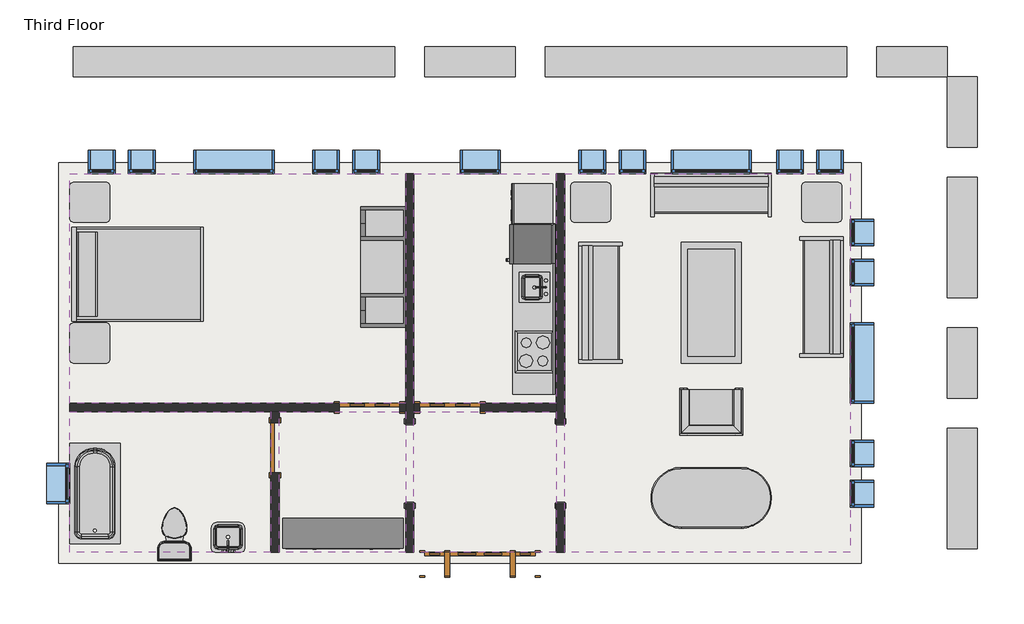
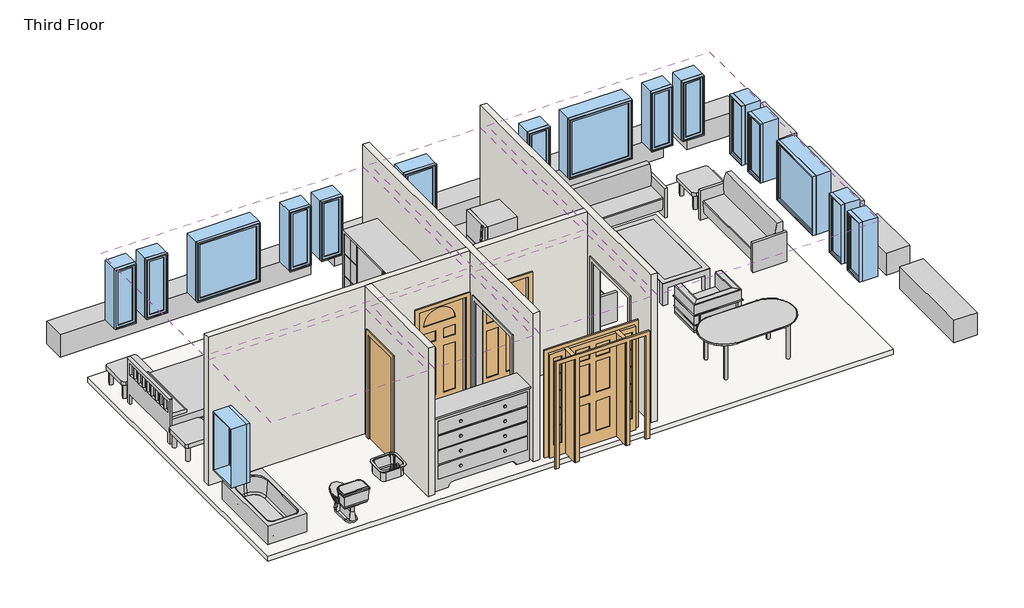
# One storey: 17 windows, 14 furniture elements, 6 coverings, 6 proxies, 5 walls, 4 doors, 4 flow terminals, 2 beams, 1 slab.
"""IFC4 building model written with IfcOpenShell, lengths in millimetres."""

from ifc_helpers import new_model, si_unit, frame, origin, place, context, project, spatial, polyline, outline, extrude, faceted_brep, transform, mapped, element, save
from components import proxy_dfcd9396, proxy_3c49123c, proxy_7a545507, proxy_f44482cc, proxy_ec3341c2, door_829da954, door_2e3b4da2, door_4d6c7550, door_dba5aa2e, flow_terminal_41332a36, flow_terminal_62a433f7, toilet_domestic_3d_toilet_domestic_3d_f7549cf7, toilet_domestic_3d_toilet_domestic_3d_183bbd19, tub_rectangular_3d_tub_rectangular_3d_15036965, furniture_096e7f55, chair_corbu_chair_corbu_2764bdef, furniture_6db689a5, furniture_7c473f12, furniture_cf0b6580, furniture_a4ffab56, furniture_cd93a443, furniture_2c34a4f9, furniture_3a588284, window_da97879f, window_d61ef850, window_60baf983, window_6eb97611

model = new_model("IFC4")

# Units and contexts
model_context = context("Model", 3, world=origin())
ifc_project = project(units=[si_unit("LENGTHUNIT", "METRE", prefix="MILLI")], contexts=[model_context])

# Site, building, storey
site = spatial("IfcSite", under=ifc_project)
building = spatial("IfcBuilding", under=site)
storey = spatial("IfcBuildingStorey", under=building, Name="Third Floor", Elevation=6096.0)

# Beams
placement = place(None, origin())
element("IfcBeam", 1, ObjectType="Concrete-Rectangular Beam : 18 x 18", at=placement, inside=storey, context=model_context, shape_type="SweptSolid", body=[
    extrude(outline(polyline([(2093.9410437, 12198.8316867), (2093.9410437, 11741.6316867), (1027.1410437, 11741.6316867), (1027.1410437, 12198.8316867), (2093.9410437, 12198.8316867)])), frame((0.0, 0.0, 5638.8), z_axis=(0.0, 0.0, 1.0), x_axis=(1.0, 0.0, 0.0)), (0.0, 0.0, 1.0), 457.2),
    extrude(outline(polyline([(-11164.8589563, 11741.6316867), (-11164.8589563, 12198.8316867), (-6288.0589563, 12198.8316867), (-6288.0589563, 11741.6316867), (-11164.8589563, 11741.6316867)])), frame((0.0, 0.0, 5638.8), z_axis=(0.0, 0.0, 1.0), x_axis=(1.0, 0.0, 0.0)), (0.0, 0.0, 1.0), 457.2),
    extrude(outline(polyline([(569.9410437, 12198.8316867), (569.9410437, 11741.6316867), (-4002.0589563, 11741.6316867), (-4002.0589563, 12198.8316867), (569.9410437, 12198.8316867)])), frame((0.0, 0.0, 5638.8), z_axis=(0.0, 0.0, 1.0), x_axis=(1.0, 0.0, 0.0)), (0.0, 0.0, 1.0), 457.2),
    extrude(outline(polyline([(-4459.2589563, 12198.8316867), (-4459.2589563, 11741.6316867), (-5830.8589563, 11741.6316867), (-5830.8589563, 12198.8316867), (-4459.2589563, 12198.8316867)])), frame((0.0, 0.0, 5638.8), z_axis=(0.0, 0.0, 1.0), x_axis=(1.0, 0.0, 0.0)), (0.0, 0.0, 1.0), 457.2),
])
element("IfcBeam", 2, ObjectType="Concrete-Rectangular Beam : 18 x 18", at=placement, inside=storey, context=model_context, shape_type="SweptSolid", body=[
    extrude(outline(polyline([(2093.9410437, 11741.6316867), (2551.1410437, 11741.6316867), (2551.1410437, 10674.8316867), (2093.9410437, 10674.8316867), (2093.9410437, 11741.6316867)])), frame((0.0, 0.0, 5638.8), z_axis=(0.0, 0.0, 1.0), x_axis=(1.0, 0.0, 0.0)), (0.0, 0.0, 1.0), 457.2),
    extrude(outline(polyline([(2551.1410437, 4578.8316867), (2093.9410437, 4578.8316867), (2093.9410437, 6407.6316867), (2551.1410437, 6407.6316867), (2551.1410437, 4578.8316867)])), frame((0.0, 0.0, 5638.8), z_axis=(0.0, 0.0, 1.0), x_axis=(1.0, 0.0, 0.0)), (0.0, 0.0, 1.0), 457.2),
    extrude(outline(polyline([(2093.9410437, 10217.6316867), (2551.1410437, 10217.6316867), (2551.1410437, 8388.8316867), (2093.9410437, 8388.8316867), (2093.9410437, 10217.6316867)])), frame((0.0, 0.0, 5638.8), z_axis=(0.0, 0.0, 1.0), x_axis=(1.0, 0.0, 0.0)), (0.0, 0.0, 1.0), 457.2),
    extrude(outline(polyline([(2093.9410437, 7931.6316867), (2551.1410437, 7931.6316867), (2551.1410437, 6864.8316867), (2093.9410437, 6864.8316867), (2093.9410437, 7931.6316867)])), frame((0.0, 0.0, 5638.8), z_axis=(0.0, 0.0, 1.0), x_axis=(1.0, 0.0, 0.0)), (0.0, 0.0, 1.0), 457.2),
])

# Proxies
proxy_shape = proxy_dfcd9396(model_context)
element("IfcBuildingElementProxy", 3, Name="Cook Top-4 Unit2 : 22\" x 20\"", ObjectType="Cook Top-4 Unit2 : 22\" x 20\"", at=placement, inside=storey, context=model_context, shape_type="MappedRepresentation", body=[
    mapped(proxy_shape, transform((-4167.1589563, 7568.5224391, 6096.0), x_axis=(0.0, 1.0000000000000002, 0.0), y_axis=(-1.0000000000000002, 0.0, 0.0), z_axis=(0.0, 0.0, 1.0))),
])
proxy_2_shape = proxy_3c49123c(model_context)
element("IfcBuildingElementProxy", 4, Name="Dishwasher : 24\" x 24\" x 34\"", ObjectType="Dishwasher : 24\" x 24\" x 34\"", at=placement, inside=storey, context=model_context, shape_type="MappedRepresentation", body=[
    mapped(proxy_2_shape, transform((-4459.0085211, 9434.1049706, 6096.0), x_axis=(0.0, 1.0000000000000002, 0.0), y_axis=(-1.0000000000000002, 0.0, 0.0), z_axis=(0.0, 0.0, 1.0))),
])
proxy_3_shape = proxy_7a545507(model_context)
element("IfcBuildingElementProxy", 5, Name="Kitchenette - Medium : 8'6\"", ObjectType="Kitchenette - Medium : 8'6\"", at=placement, inside=storey, context=model_context, shape_type="MappedRepresentation", body=[
    mapped(proxy_3_shape, transform((-3862.3589563, 8197.4847342, 6096.0), x_axis=(0.0, 1.0000000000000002, 0.0), y_axis=(-1.0000000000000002, 0.0, 0.0), z_axis=(0.0, 0.0, 1.0))),
])
proxy_4_shape = proxy_f44482cc(model_context)
element("IfcBuildingElementProxy", 6, Name="Opening-Cased : 48\" x 84\"", ObjectType="Opening-Cased : 48\" x 84\"", at=placement, inside=storey, context=model_context, shape_type="MappedRepresentation", body=[
    mapped(proxy_4_shape, transform((-3773.4589563, 5882.4203434, 6096.0), x_axis=(0.0, 1.0, 0.0), y_axis=(-1.0, 0.0, 0.0), z_axis=(0.0, 0.0, 1.0))),
])
element("IfcBuildingElementProxy", 7, Name="Opening-Cased : 48\" x 84\"", ObjectType="Opening-Cased : 48\" x 84\"", at=placement, inside=storey, context=model_context, shape_type="MappedRepresentation", body=[
    mapped(proxy_4_shape, transform((-6059.4589563, 5866.04303, 6096.0), x_axis=(0.0, -1.0, 0.0), y_axis=(1.0, 0.0, 0.0), z_axis=(0.0, 0.0, 1.0))),
])
proxy_5_shape = proxy_ec3341c2(model_context)
element("IfcBuildingElementProxy", 8, Name="Refrigerator : 24\" x 25\" LH", ObjectType="Refrigerator : 24\" x 25\" LH", at=placement, inside=storey, context=model_context, shape_type="MappedRepresentation", body=[
    mapped(proxy_5_shape, transform((-4212.8079278, 9200.4724391, 6096.0), x_axis=(0.0, 1.0000000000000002, 0.0), y_axis=(-1.0000000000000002, 0.0, 0.0), z_axis=(0.0, 0.0, 1.0))),
])

# Coverings
element("IfcCovering", 9, ObjectType="GWB on Mtl. Stud", at=placement, inside=storey, context=model_context, shape_type="SweptSolid", body=[
    extrude(outline(polyline([(-11217.2464563, 10270.0191867), (-6122.9589563, 10270.0191867), (-6122.9589563, 6787.0441867), (-11217.2464563, 6787.0441867), (-11217.2464563, 10270.0191867)])), frame((0.0, 0.0, 8686.8), z_axis=(0.0, 0.0, 1.0), x_axis=(1.0, 0.0, 0.0)), (0.0, 0.0, 1.0), 107.95),
])
element("IfcCovering", 10, ObjectType="GWB on Mtl. Stud", at=placement, inside=storey, context=model_context, shape_type="SweptSolid", body=[
    extrude(outline(polyline([(-5995.9589563, 6787.0441867), (-5995.9589563, 10270.0191867), (-3836.9589563, 10270.0191867), (-3836.9589563, 6787.0441867), (-5995.9589563, 6787.0441867)])), frame((0.0, 0.0, 8686.8), z_axis=(0.0, 0.0, 1.0), x_axis=(1.0, 0.0, 0.0)), (0.0, 0.0, 1.0), 107.95),
])
element("IfcCovering", 11, ObjectType="GWB on Mtl. Stud", at=placement, inside=storey, context=model_context, shape_type="SweptSolid", body=[
    extrude(outline(polyline([(-3709.9589563, 4526.4441867), (-3709.9589563, 10270.0191867), (622.3285437, 10270.0191867), (622.3285437, 4526.4441867), (-3709.9589563, 4526.4441867)])), frame((0.0, 0.0, 8686.8), z_axis=(0.0, 0.0, 1.0), x_axis=(1.0, 0.0, 0.0)), (0.0, 0.0, 1.0), 107.95),
])
element("IfcCovering", 12, ObjectType="GWB on Mtl. Stud", at=placement, inside=storey, context=model_context, shape_type="SweptSolid", body=[
    extrude(outline(polyline([(-3836.9589563, 4526.4441867), (-5995.9589563, 4526.4441867), (-5995.9589563, 6660.0441867), (-3836.9589563, 6660.0441867), (-3836.9589563, 4526.4441867)])), frame((0.0, 0.0, 8686.8), z_axis=(0.0, 0.0, 1.0), x_axis=(1.0, 0.0, 0.0)), (0.0, 0.0, 1.0), 107.95),
])
element("IfcCovering", 13, ObjectType="GWB on Mtl. Stud", at=placement, inside=storey, context=model_context, shape_type="SweptSolid", body=[
    extrude(outline(polyline([(-8169.2464563, 6660.0441867), (-8169.2464563, 4526.4441867), (-11217.2464563, 4526.4441867), (-11217.2464563, 6660.0441867), (-8169.2464563, 6660.0441867)])), frame((0.0, 0.0, 8686.8), z_axis=(0.0, 0.0, 1.0), x_axis=(1.0, 0.0, 0.0)), (0.0, 0.0, 1.0), 107.95),
])
element("IfcCovering", 14, ObjectType="GWB on Mtl. Stud", at=placement, inside=storey, context=model_context, shape_type="SweptSolid", body=[
    extrude(outline(polyline([(-6122.9589563, 4526.4441867), (-8042.2464563, 4526.4441867), (-8042.2464563, 6660.0441867), (-6122.9589563, 6660.0441867), (-6122.9589563, 4526.4441867)])), frame((0.0, 0.0, 8686.8), z_axis=(0.0, 0.0, 1.0), x_axis=(1.0, 0.0, 0.0)), (0.0, 0.0, 1.0), 107.95),
])

# Doors
door_shape = door_829da954(model_context)
element("IfcDoor", 15, ObjectType="Single-Decorative 2 : 36\" x 84\"", at=placement, inside=storey, context=model_context, shape_type="MappedRepresentation", body=[
    mapped(door_shape, transform((-5449.8589563, 6723.5441867, 6096.0), x_axis=(-1.0, 0.0, 0.0), y_axis=(0.0, -1.0, 0.0), z_axis=(0.0, 0.0, 1.0))),
])
door_2_shape = door_2e3b4da2(model_context)
element("IfcDoor", 16, ObjectType="Single-Decorative 2 : 36\" x 84\"", at=placement, inside=storey, context=model_context, shape_type="MappedRepresentation", body=[
    mapped(door_2_shape, transform((-6669.0589563, 6723.5441867, 6096.0), x_axis=(1.0, 0.0, 0.0), y_axis=(0.0, 1.0, 0.0), z_axis=(0.0, 0.0, 1.0))),
])
door_3_shape = door_4d6c7550(model_context)
element("IfcDoor", 17, ObjectType="Single-Flush : 30\" x 84\"", at=placement, inside=storey, context=model_context, shape_type="MappedRepresentation", body=[
    mapped(door_3_shape, transform((-8105.7464563, 6113.9441867, 6096.0), x_axis=(0.0, 1.0, 0.0), y_axis=(-1.0, 0.0, 0.0), z_axis=(0.0, 0.0, 1.0))),
])
door_4_shape = door_dba5aa2e(model_context)
element("IfcDoor", 18, ObjectType="Single-Raised Panel with Sidelights : 36\" x 84\"", at=placement, inside=storey, context=model_context, shape_type="MappedRepresentation", body=[
    mapped(door_4_shape, transform((-4992.6589563, 4350.2316867, 6096.0), x_axis=(-1.0, 0.0, 0.0), y_axis=(0.0, -1.0, 0.0), z_axis=(0.0, 0.0, 1.0))),
])

# Flow terminals
flow_terminal_shape = flow_terminal_41332a36(model_context)
element("IfcFlowTerminal", 19, ObjectType="Sink Kitchen-Island : 18\" x 18\"", at=placement, inside=storey, context=model_context, shape_type="MappedRepresentation", body=[
    mapped(flow_terminal_shape, transform((-4169.5043574, 8530.7331986, 6081.6), x_axis=(0.0, 1.0000000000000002, 0.0), y_axis=(-1.0000000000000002, 0.0, 0.0), z_axis=(0.0, 0.0, 1.0))),
])
flow_terminal_2_shape = flow_terminal_62a433f7(model_context)
element("IfcFlowTerminal", 20, ObjectType="Sink Vanity-Square : 20\" x 18\"", at=placement, inside=storey, context=model_context, shape_type="MappedRepresentation", body=[
    mapped(flow_terminal_2_shape, transform((-8801.2572158, 4706.5895878, 6096.0), x_axis=(-1.0, 0.0, 0.0), y_axis=(0.0, -1.0, 0.0), z_axis=(0.0, 0.0, 1.0))),
])
toilet_domestic_3d_toilet_domestic_3d_shape = toilet_domestic_3d_toilet_domestic_3d_f7549cf7(model_context)
toilet_domestic_3d_toilet_domestic_3d_2_shape = toilet_domestic_3d_toilet_domestic_3d_183bbd19(model_context)
element("IfcFlowTerminal", 21, ObjectType="Toilet-Domestic-3D : Toilet-Domestic-3D", at=placement, inside=storey, context=model_context, shape_type="MappedRepresentation", body=[
    mapped(toilet_domestic_3d_toilet_domestic_3d_shape, transform((-9629.7464563, 4894.7441867, 6096.0), x_axis=(-1.0, 0.0, 0.0), y_axis=(0.0, -1.0, 0.0), z_axis=(0.0, 0.0, 1.0))),
    mapped(toilet_domestic_3d_toilet_domestic_3d_2_shape, transform((-9629.7464563, 4894.7441867, 6096.0), x_axis=(-1.0, 0.0, 0.0), y_axis=(0.0, -1.0, 0.0), z_axis=(0.0, 0.0, 1.0))),
])
tub_rectangular_3d_tub_rectangular_3d_shape = tub_rectangular_3d_tub_rectangular_3d_15036965(model_context)
element("IfcFlowTerminal", 22, ObjectType="Tub-Rectangular-3D : Tub-Rectangular-3D", at=placement, inside=storey, context=model_context, shape_type="MappedRepresentation", body=[
    mapped(tub_rectangular_3d_tub_rectangular_3d_shape, transform((-11393.4589563, 5765.6346554, 6096.0), x_axis=(0.0, 1.0, 0.0), y_axis=(-1.0, 0.0, 0.0), z_axis=(0.0, 0.0, 1.0))),
])

# Furniture
furniture_shape = furniture_096e7f55(model_context)
element("IfcFurniture", 23, ObjectType="Bed-Shaker : Double 56\" x 78\"", at=placement, inside=storey, context=model_context, shape_type="MappedRepresentation", body=[
    mapped(furniture_shape, transform((-11172.0857802, 8763.4816867, 6096.0), x_axis=(0.0, 1.0, 0.0), y_axis=(-1.0, 0.0, 0.0), z_axis=(0.0, 0.0, 1.0))),
])
chair_corbu_chair_corbu_shape = chair_corbu_chair_corbu_2764bdef(model_context)
element("IfcFurniture", 24, ObjectType="Chair-Corbu : Chair-Corbu", at=placement, inside=storey, context=model_context, shape_type="MappedRepresentation", body=[
    mapped(chair_corbu_chair_corbu_shape, transform((-914.0851858, 7126.8212359, 6096.0), x_axis=(-1.0, 0.0, 0.0), y_axis=(0.0, -1.0, 0.0), z_axis=(0.0, 0.0, 1.0))),
])
furniture_2_shape = furniture_6db689a5(model_context)
element("IfcFurniture", 25, ObjectType="Counter Top w Sink Hole : 24\" Depth", at=placement, inside=storey, context=model_context, shape_type="MappedRepresentation", body=[
    mapped(furniture_2_shape, transform((-3862.3589563, 8121.2847342, 6081.6), x_axis=(0.0, 1.0000000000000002, 0.0), y_axis=(-1.0000000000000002, 0.0, 0.0), z_axis=(0.0, 0.0, 1.0))),
])
furniture_3_shape = furniture_7c473f12(model_context)
element("IfcFurniture", 26, ObjectType="Dresser : 72\" x 60\" x 18\"", at=placement, inside=storey, context=model_context, shape_type="MappedRepresentation", body=[
    mapped(furniture_3_shape, transform((-6806.2656965, 5181.7071408, 6096.0), x_axis=(1.0, 0.0, 0.0), y_axis=(0.0, 1.0, 0.0), z_axis=(0.0, 0.0, 1.0))),
])
furniture_4_shape = furniture_cf0b6580(model_context)
element("IfcFurniture", 27, ObjectType="Entertainment Center : 72\" x 72\" x 24\"", at=placement, inside=storey, context=model_context, shape_type="MappedRepresentation", body=[
    mapped(furniture_4_shape, transform((-6021.3589563, 8857.1441867, 6096.0), x_axis=(0.0, -1.0, 0.0), y_axis=(1.0, 0.0, 0.0), z_axis=(0.0, 0.0, 1.0))),
])
furniture_5_shape = furniture_a4ffab56(model_context)
element("IfcFurniture", 28, ObjectType="Sofa : 72\"", at=placement, inside=storey, context=model_context, shape_type="MappedRepresentation", body=[
    mapped(furniture_5_shape, transform((-3017.704858, 8242.2611949, 6096.0), x_axis=(0.0, 1.0, 0.0), y_axis=(-1.0, 0.0, 0.0), z_axis=(0.0, 0.0, 1.0))),
])
element("IfcFurniture", 29, ObjectType="Sofa : 72\"", at=placement, inside=storey, context=model_context, shape_type="MappedRepresentation", body=[
    mapped(furniture_5_shape, transform((-1557.8294481, 9801.5748071, 6096.0), x_axis=(1.0, 0.0, 0.0), y_axis=(0.0, 1.0, 0.0), z_axis=(0.0, 0.0, 1.0))),
])
element("IfcFurniture", 30, ObjectType="Sofa : 72\"", at=placement, inside=storey, context=model_context, shape_type="MappedRepresentation", body=[
    mapped(furniture_5_shape, transform((42.7869453, 8470.3146785, 6096.0), x_axis=(0.0, -1.0, 0.0), y_axis=(1.0, 0.0, 0.0), z_axis=(0.0, 0.0, 1.0))),
])
furniture_6_shape = furniture_cd93a443(model_context)
element("IfcFurniture", 31, ObjectType="Table-Coffee : 36\" x 72\" x 18\"", at=placement, inside=storey, context=model_context, shape_type="MappedRepresentation", body=[
    mapped(furniture_6_shape, transform((-1392.2478785, 8294.36592, 6096.0), x_axis=(0.0, 1.0, 0.0), y_axis=(-1.0, 0.0, 0.0), z_axis=(0.0, 0.0, 1.0))),
])
furniture_7_shape = furniture_2c34a4f9(model_context)
element("IfcFurniture", 32, ObjectType="Table-Dining Oval : 36\" x 72\"", at=placement, inside=storey, context=model_context, shape_type="MappedRepresentation", body=[
    mapped(furniture_7_shape, transform((-1085.6392842, 5710.0425473, 6096.0), x_axis=(1.0, 0.0, 0.0), y_axis=(0.0, 1.0, 0.0), z_axis=(0.0, 0.0, 1.0))),
])
furniture_8_shape = furniture_3a588284(model_context)
element("IfcFurniture", 33, ObjectType="Table-End : 24\" x 24\"", at=placement, inside=storey, context=model_context, shape_type="MappedRepresentation", body=[
    mapped(furniture_8_shape, transform((-119.5925866, 9684.2316867, 6096.0), x_axis=(1.0, 0.0, 0.0), y_axis=(0.0, 1.0, 0.0), z_axis=(0.0, 0.0, 1.0))),
])
element("IfcFurniture", 34, ObjectType="Table-End : 24\" x 24\"", at=placement, inside=storey, context=model_context, shape_type="MappedRepresentation", body=[
    mapped(furniture_8_shape, transform((-11220.9800866, 7550.6316867, 6096.0), x_axis=(1.0, 0.0, 0.0), y_axis=(0.0, 1.0, 0.0), z_axis=(0.0, 0.0, 1.0))),
])
element("IfcFurniture", 35, ObjectType="Table-End : 24\" x 24\"", at=placement, inside=storey, context=model_context, shape_type="MappedRepresentation", body=[
    mapped(furniture_8_shape, transform((-11220.9800866, 9684.2316867, 6096.0), x_axis=(1.0, 0.0, 0.0), y_axis=(0.0, 1.0, 0.0), z_axis=(0.0, 0.0, 1.0))),
])
element("IfcFurniture", 36, ObjectType="Table-End : 24\" x 24\"", at=placement, inside=storey, context=model_context, shape_type="MappedRepresentation", body=[
    mapped(furniture_8_shape, transform((-3624.7925866, 9684.2316867, 6096.0), x_axis=(1.0, 0.0, 0.0), y_axis=(0.0, 1.0, 0.0), z_axis=(0.0, 0.0, 1.0))),
])

# Slab
element("IfcSlab", 37, ObjectType="LW Concrete on Metal Deck", at=placement, inside=storey, context=model_context, shape_type="SweptSolid", body=[
    extrude(outline(polyline([(787.4285437, 10435.1191867), (787.4285437, 4361.3441867), (-11382.3464563, 4361.3441867), (-11382.3464563, 10435.1191867), (787.4285437, 10435.1191867)])), frame((0.0, 0.0, 5991.225), z_axis=(0.0, 0.0, 1.0), x_axis=(1.0, 0.0, 0.0)), (0.0, 0.0, 1.0), 104.775),
])

# Walls
element("IfcWall", 38, ObjectType="Interior - 5\" Partition (2-hr)", at=placement, inside=storey, context=model_context, shape_type="Brep", body=[
    faceted_brep([(-3709.9589563, 10270.0191867, 6096.0), (-3709.9589563, 6483.8316867, 6096.0), (-3836.9589563, 6483.8316867, 6096.0), (-3836.9589563, 6660.0441867, 6096.0), (-3836.9589563, 6787.0441867, 6096.0), (-3836.9589563, 10270.0191867, 6096.0), (-3709.9589563, 5264.6316867, 6096.0), (-3709.9589563, 4526.4441867, 6096.0), (-3836.9589563, 4526.4441867, 6096.0), (-3836.9589563, 5264.6316867, 6096.0), (-3836.9589563, 10270.0191867, 9144.0), (-3836.9589563, 6787.0441867, 9144.0), (-3836.9589563, 6660.0441867, 9144.0), (-3836.9589563, 4526.4441867, 9144.0), (-3709.9589563, 4526.4441867, 9144.0), (-3709.9589563, 10270.0191867, 9144.0), (-3836.9589563, 6483.8316867, 8229.6), (-3836.9589563, 5264.6316867, 8229.6), (-3709.9589563, 6483.8316867, 8229.6), (-3709.9589563, 5264.6316867, 8229.6)], [[[0, 1, 2, 3, 4, 5]], [[6, 7, 8, 9]], [[10, 11, 12, 13, 14, 15]], [[5, 4, 3, 2, 16, 17, 9, 8, 13, 12, 11, 10]], [[18, 1, 0, 15, 14, 7, 6, 19]], [[5, 10, 15, 0]], [[13, 8, 7, 14]], [[9, 17, 19, 6]], [[16, 2, 1, 18]], [[17, 16, 18, 19]]]),
])
element("IfcWall", 39, ObjectType="Interior - 5\" Partition (2-hr)", at=placement, inside=storey, context=model_context, shape_type="Brep", body=[
    faceted_brep([(-6122.9589563, 4526.4441867, 6096.0), (-6122.9589563, 5264.6316867, 6096.0), (-5995.9589563, 5264.6316867, 6096.0), (-5995.9589563, 4526.4441867, 6096.0), (-6122.9589563, 6483.8316867, 6096.0), (-6122.9589563, 6660.0441867, 6096.0), (-6122.9589563, 6787.0441867, 6096.0), (-6122.9589563, 10270.0191867, 6096.0), (-5995.9589563, 10270.0191867, 6096.0), (-5995.9589563, 6787.0441867, 6096.0), (-5995.9589563, 6660.0441867, 6096.0), (-5995.9589563, 6483.8316867, 6096.0), (-6122.9589563, 10270.0191867, 9144.0), (-6122.9589563, 6787.0441867, 9144.0), (-6122.9589563, 6660.0441867, 9144.0), (-6122.9589563, 4526.4441867, 9144.0), (-5995.9589563, 4526.4441867, 9144.0), (-5995.9589563, 6660.0441867, 9144.0), (-5995.9589563, 6787.0441867, 9144.0), (-5995.9589563, 10270.0191867, 9144.0), (-6122.9589563, 5264.6316867, 8229.6), (-6122.9589563, 6483.8316867, 8229.6), (-5995.9589563, 5264.6316867, 8229.6), (-5995.9589563, 6483.8316867, 8229.6)], [[[0, 1, 2, 3]], [[4, 5, 6, 7, 8, 9, 10, 11]], [[12, 13, 14, 15, 16, 17, 18, 19]], [[20, 1, 0, 15, 14, 13, 12, 7, 6, 5, 4, 21]], [[3, 2, 22, 23, 11, 10, 9, 8, 19, 18, 17, 16]], [[7, 12, 19, 8]], [[15, 0, 3, 16]], [[11, 23, 21, 4]], [[22, 2, 1, 20]], [[23, 22, 20, 21]]]),
])
element("IfcWall", 40, ObjectType="Interior - 5\" Partition (2-hr)", at=placement, inside=storey, context=model_context, shape_type="Brep", body=[
    faceted_brep([(-6122.9589563, 6660.0441867, 6096.0), (-6211.8589563, 6660.0441867, 6096.0), (-6211.8589563, 6787.0441867, 6096.0), (-6122.9589563, 6787.0441867, 6096.0), (-7126.2589563, 6660.0441867, 6096.0), (-8042.2464563, 6660.0441867, 6096.0), (-8169.2464563, 6660.0441867, 6096.0), (-11217.2464563, 6660.0441867, 6096.0), (-11217.2464563, 6787.0441867, 6096.0), (-7126.2589563, 6787.0441867, 6096.0), (-11217.2464563, 6660.0441867, 9144.0), (-8169.2464563, 6660.0441867, 9144.0), (-8042.2464563, 6660.0441867, 9144.0), (-6122.9589563, 6660.0441867, 9144.0), (-6122.9589563, 6787.0441867, 9144.0), (-11217.2464563, 6787.0441867, 9144.0), (-6211.8589563, 6660.0441867, 8229.6), (-7126.2589563, 6660.0441867, 8229.6), (-6211.8589563, 6787.0441867, 8229.6), (-7126.2589563, 6787.0441867, 8229.6)], [[[0, 1, 2, 3]], [[4, 5, 6, 7, 8, 9]], [[10, 11, 12, 13, 14, 15]], [[16, 1, 0, 13, 12, 11, 10, 7, 6, 5, 4, 17]], [[3, 2, 18, 19, 9, 8, 15, 14]], [[13, 0, 3, 14]], [[7, 10, 15, 8]], [[18, 2, 1, 16]], [[19, 18, 16, 17]], [[9, 19, 17, 4]]]),
])
element("IfcWall", 41, ObjectType="Interior - 5\" Partition (2-hr)", at=placement, inside=storey, context=model_context, shape_type="SweptSolid", body=[
    extrude(outline(polyline([(6660.0441867, 6096.0), (6494.9441867, 6096.0), (6494.9441867, 8229.6), (5732.9441867, 8229.6), (5732.9441867, 6096.0), (4526.4441867, 6096.0), (4526.4441867, 9144.0), (6660.0441867, 9144.0), (6660.0441867, 6096.0)])), frame((-8169.2464563, 0.0, 0.0), z_axis=(1.0, 0.0, 0.0), x_axis=(0.0, 1.0, 0.0)), (0.0, 0.0, 1.0), 127.0),
])
element("IfcWall", 42, ObjectType="Interior - 5\" Partition (2-hr)", at=placement, inside=storey, context=model_context, shape_type="SweptSolid", body=[
    extrude(outline(polyline([(6096.0, -5995.9589563), (6096.0, -5907.0589563), (8229.6, -5907.0589563), (8229.6, -4992.6589563), (6096.0, -4992.6589563), (6096.0, -3836.9589563), (9144.0, -3836.9589563), (9144.0, -5995.9589563), (6096.0, -5995.9589563)])), frame((0.0, 6660.0441867, 0.0), z_axis=(0.0, 1.0, 0.0), x_axis=(0.0, 0.0, 1.0)), (0.0, 0.0, 1.0), 127.0),
])

# Windows
window_shape = window_da97879f(model_context)
element("IfcWindow", 43, ObjectType="Fixed : 16\" x 48\"", at=placement, inside=storey, context=model_context, shape_type="MappedRepresentation", body=[
    mapped(window_shape, transform((-10771.1589563, 10446.2316867, 6096.0), x_axis=(-1.0, 0.0, 0.0), y_axis=(0.0, -1.0, 0.0), z_axis=(0.0, 0.0, 1.0))),
])
element("IfcWindow", 44, ObjectType="Fixed : 16\" x 48\"", at=placement, inside=storey, context=model_context, shape_type="MappedRepresentation", body=[
    mapped(window_shape, transform((-10161.5589563, 10446.2316867, 6096.0), x_axis=(-1.0, 0.0, 0.0), y_axis=(0.0, -1.0, 0.0), z_axis=(0.0, 0.0, 1.0))),
])
element("IfcWindow", 45, ObjectType="Fixed : 16\" x 48\"", at=placement, inside=storey, context=model_context, shape_type="MappedRepresentation", body=[
    mapped(window_shape, transform((-3328.9589563, 10446.2316867, 6096.0), x_axis=(-1.0, 0.0, 0.0), y_axis=(0.0, -1.0, 0.0), z_axis=(0.0, 0.0, 1.0))),
])
element("IfcWindow", 46, ObjectType="Fixed : 16\" x 48\"", at=placement, inside=storey, context=model_context, shape_type="MappedRepresentation", body=[
    mapped(window_shape, transform((-2719.3589563, 10446.2316867, 6096.0), x_axis=(-1.0, 0.0, 0.0), y_axis=(0.0, -1.0, 0.0), z_axis=(0.0, 0.0, 1.0))),
])
element("IfcWindow", 47, ObjectType="Fixed : 16\" x 48\"", at=placement, inside=storey, context=model_context, shape_type="MappedRepresentation", body=[
    mapped(window_shape, transform((798.5410437, 9417.5316867, 6096.0), x_axis=(0.0, 1.0, 0.0), y_axis=(-1.0, 0.0, 0.0), z_axis=(0.0, 0.0, 1.0))),
])
element("IfcWindow", 48, ObjectType="Fixed : 16\" x 48\"", at=placement, inside=storey, context=model_context, shape_type="MappedRepresentation", body=[
    mapped(window_shape, transform((798.5410437, 8807.9316867, 6096.0), x_axis=(0.0, 1.0, 0.0), y_axis=(-1.0, 0.0, 0.0), z_axis=(0.0, 0.0, 1.0))),
])
window_2_shape = window_d61ef850(model_context)
element("IfcWindow", 49, ObjectType="Fixed : 16\" x 48\"", at=placement, inside=storey, context=model_context, shape_type="MappedRepresentation", body=[
    mapped(window_2_shape, transform((-6681.7589563, 10446.2316867, 6096.0), x_axis=(1.0, 0.0, 0.0), y_axis=(0.0, 1.0, 0.0), z_axis=(0.0, 0.0, 1.0))),
])
element("IfcWindow", 50, ObjectType="Fixed : 16\" x 48\"", at=placement, inside=storey, context=model_context, shape_type="MappedRepresentation", body=[
    mapped(window_2_shape, transform((-7291.3589563, 10446.2316867, 6096.0), x_axis=(1.0, 0.0, 0.0), y_axis=(0.0, 1.0, 0.0), z_axis=(0.0, 0.0, 1.0))),
])
element("IfcWindow", 51, ObjectType="Fixed : 16\" x 48\"", at=placement, inside=storey, context=model_context, shape_type="MappedRepresentation", body=[
    mapped(window_2_shape, transform((354.0410437, 10446.2316867, 6096.0), x_axis=(1.0, 0.0, 0.0), y_axis=(0.0, 1.0, 0.0), z_axis=(0.0, 0.0, 1.0))),
])
element("IfcWindow", 52, ObjectType="Fixed : 16\" x 48\"", at=placement, inside=storey, context=model_context, shape_type="MappedRepresentation", body=[
    mapped(window_2_shape, transform((-255.5589563, 10446.2316867, 6096.0), x_axis=(1.0, 0.0, 0.0), y_axis=(0.0, 1.0, 0.0), z_axis=(0.0, 0.0, 1.0))),
])
element("IfcWindow", 53, ObjectType="Fixed : 16\" x 48\"", at=placement, inside=storey, context=model_context, shape_type="MappedRepresentation", body=[
    mapped(window_2_shape, transform((798.5410437, 5378.9316867, 6096.0), x_axis=(0.0, -1.0, 0.0), y_axis=(1.0, 0.0, 0.0), z_axis=(0.0, 0.0, 1.0))),
])
element("IfcWindow", 54, ObjectType="Fixed : 16\" x 48\"", at=placement, inside=storey, context=model_context, shape_type="MappedRepresentation", body=[
    mapped(window_2_shape, transform((798.5410437, 5988.5316867, 6096.0), x_axis=(0.0, -1.0, 0.0), y_axis=(1.0, 0.0, 0.0), z_axis=(0.0, 0.0, 1.0))),
])
window_3_shape = window_60baf983(model_context)
element("IfcWindow", 55, ObjectType="Fixed : 24\" x 48\"", at=placement, inside=storey, context=model_context, shape_type="MappedRepresentation", body=[
    mapped(window_3_shape, transform((-5030.7589563, 10446.2316867, 6096.0), x_axis=(-1.0, 0.0, 0.0), y_axis=(0.0, -1.0, 0.0), z_axis=(0.0, 0.0, 1.0))),
])
element("IfcWindow", 56, ObjectType="Fixed : 24\" x 48\"", at=placement, inside=storey, context=model_context, shape_type="MappedRepresentation", body=[
    mapped(window_3_shape, transform((-11393.4589563, 5531.3316867, 6096.0), x_axis=(0.0, -1.0, 0.0), y_axis=(1.0, 0.0, 0.0), z_axis=(0.0, 0.0, 1.0))),
])
window_4_shape = window_6eb97611(model_context)
element("IfcWindow", 57, ObjectType="Fixed : 48\" x 48\"", at=placement, inside=storey, context=model_context, shape_type="MappedRepresentation", body=[
    mapped(window_4_shape, transform((-8764.5589563, 10446.2316867, 6096.0), x_axis=(-1.0, 0.0, 0.0), y_axis=(0.0, -1.0, 0.0), z_axis=(0.0, 0.0, 1.0))),
])
element("IfcWindow", 58, ObjectType="Fixed : 48\" x 48\"", at=placement, inside=storey, context=model_context, shape_type="MappedRepresentation", body=[
    mapped(window_4_shape, transform((-1525.5589563, 10446.2316867, 6096.0), x_axis=(-1.0, 0.0, 0.0), y_axis=(0.0, -1.0, 0.0), z_axis=(0.0, 0.0, 1.0))),
])
element("IfcWindow", 59, ObjectType="Fixed : 48\" x 48\"", at=placement, inside=storey, context=model_context, shape_type="MappedRepresentation", body=[
    mapped(window_4_shape, transform((798.5410437, 7436.3316867, 6096.0), x_axis=(0.0, 1.0, 0.0), y_axis=(-1.0, 0.0, 0.0), z_axis=(0.0, 0.0, 1.0))),
])

save(model, "model.ifc")
